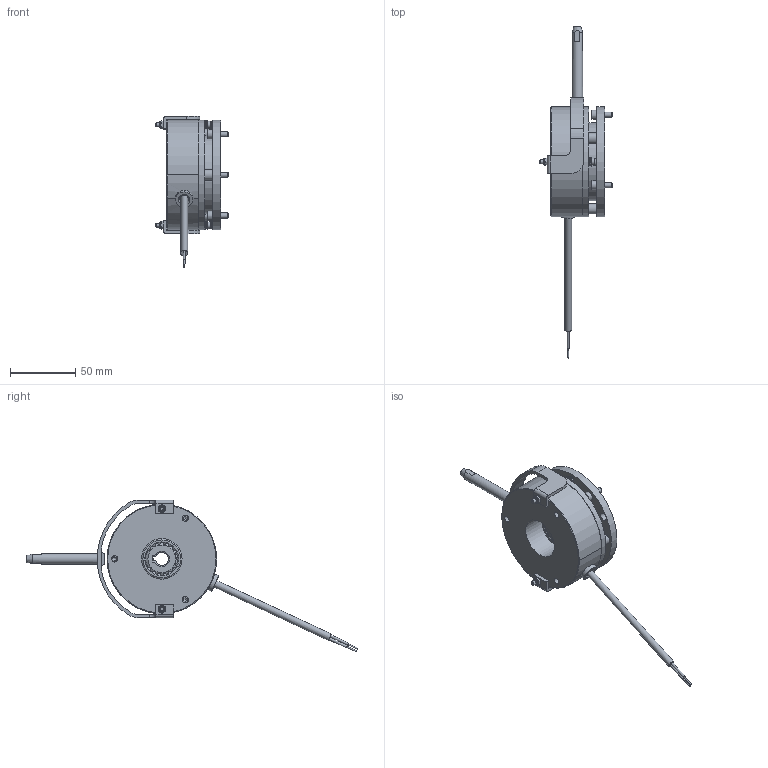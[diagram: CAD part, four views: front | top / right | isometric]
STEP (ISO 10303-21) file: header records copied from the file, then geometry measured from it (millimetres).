
FILE_DESCRIPTION(/* description */ (''),/* implementation_level */ '2;1');
FILE_NAME(/* name */ 'C:\SapWorkDir\Inventor\IP1\ConvertTempPath\5022694_IPT_000.ipt.stp',/* time_stamp */ '2020-08-27T11:16:59+02:00',/* author */ ('STRATE'),/* organization */ (''),/* preprocessor_version */ 'ST-DEVELOPER v17',/* originating_system */ 'Autodesk Inventor 2018',/* authorisation */ '');
FILE_SCHEMA (('AUTOMOTIVE_DESIGN { 1 0 10303 214 3 1 1 }'));
Length unit declared in the file: millimetre
Products named in the file (1): 5022694
Bounding box: 55.7 x 254.22 x 116.18 mm (x, y, z)
Volume: 199102 mm3; surface area: 62812.7 mm2
Topology: 3 solids, 3 shells, 521 faces, 1424 edges, 954 vertices
Faces by surface type: cylinder 223, plane 189, cone 84, torus 23, bspline 2
Full cylindrical faces by diameter (mm): 1 x2, 1.85 x2, 3 x5, 3.2 x2, 3.242 x2, 3.571 x3, 4 x8, 4.134 x1, 4.4 x3, 4.5 x3, 4.6 x3, 4.675 x2, 4.8 x5, 5.3 x1, 5.5 x2, 6 x2, 6.3 x2, 6.6 x1, 7 x5, 8 x4, 8.4 x3, 8.8 x6, 13.2 x1, 29 x1, 31 x3, 39.5 x2, 40 x2, 60 x1, 84 x2
Entity records: 19901 total; most frequent: CARTESIAN_POINT 6079, ORIENTED_EDGE 2834, DIRECTION 2724, EDGE_CURVE 1417, AXIS2_PLACEMENT_3D 1106, VERTEX_POINT 956, EDGE_LOOP 625, CIRCLE 562
